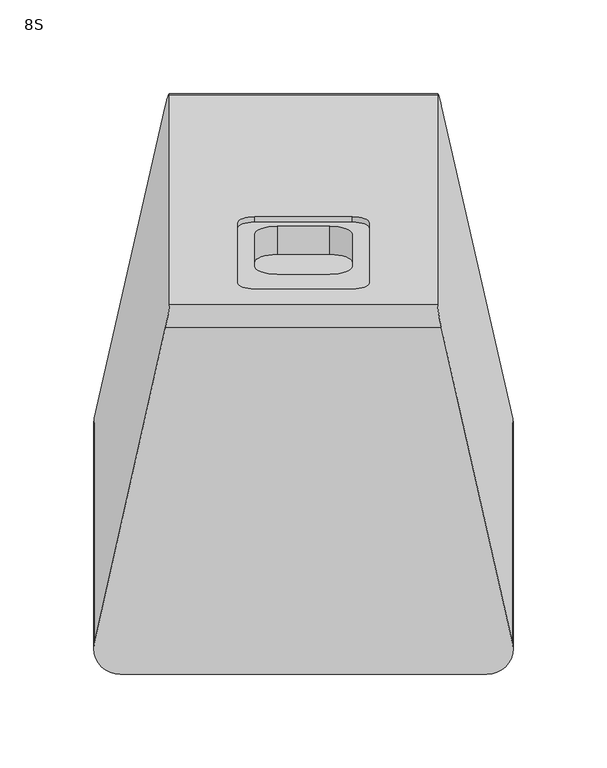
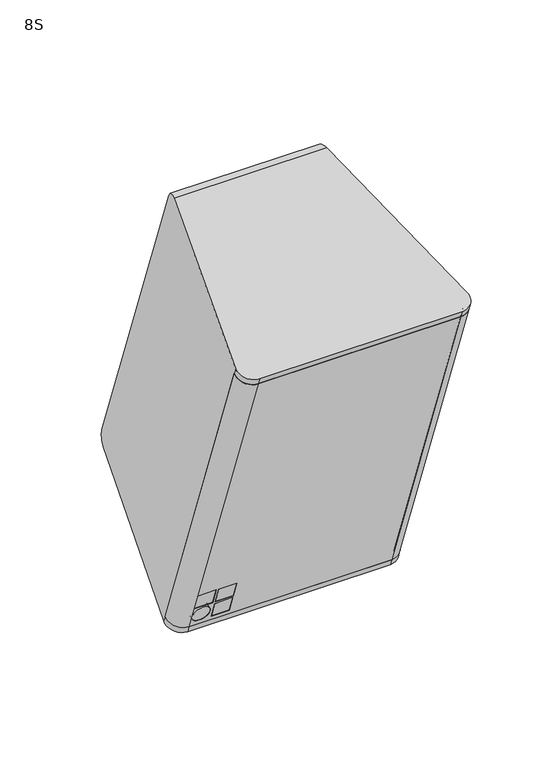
"""IFC4 building model written with IfcOpenShell, lengths in millimetres: proxy geometry, d&b xS-Series 8S Point Source : 8S."""

from ifc_helpers import new_model, si_unit, point, frame, frame_2d, origin, place, context, project, spatial, polyline, circle_curve, ellipse_curve, trimmed, segment, composite_curve, outline, extrude, source, transform, mapped, element, save
from ifc_brep_helpers import plane_surface, cylinder_surface, revolved_surface, advanced_brep


def proxy_8s_6c60cdf4(model_context):
    return source(origin(), model_context, "Body", "SolidModel", [
        extrude(outline(composite_curve([segment(polyline([(-2.8289978, -17.7116696), (-2.8289978, 194.7564467)]), True, "CONTINUOUS"), segment(trimmed(circle_curve(frame_2d((0.0817658, 186.2401415)), 9.0), [point((-2.8289978, 194.7564467))], [point((9.0817658, 186.2401415))], False, "CARTESIAN"), True, "CONTINUOUS"), segment(polyline([(9.0817658, 186.2401415), (9.0817658, -9.0817658)]), True, "CONTINUOUS"), segment(trimmed(circle_curve(frame_2d((0.0, -9.0817658)), 9.0817658), [point((9.0817658, -9.0817658))], [point((-2.8289978, -17.7116696))], False, "CARTESIAN"), True, "CONTINUOUS")], self_intersect=False)), frame((-88.5287017, -25.284558, -189.04887), z_axis=(0.0, -0.34202014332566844, 0.9396926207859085), x_axis=(0.0, -0.9396926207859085, -0.34202014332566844)), (0.0, 0.0, 1.0), 338.0),
        advanced_brep(
        [(-79.8104675, -53.0529455, -153.9281812), (-79.8104675, -48.3544824, -152.2180805), (-79.8104675, -42.3691299, -168.6627014), (-79.8104675, -47.067593, -170.3728021), (-97.3104675, -42.3691299, -168.6627014), (-97.3104675, -47.067593, -170.3728021), (-97.3104675, -48.3544824, -152.2180805), (-97.3104675, -53.0529455, -153.9281812), (-59.8104675, -53.0529455, -153.9281812), (-59.8104675, -48.3544824, -152.2180805), (-59.8104675, -42.3691299, -168.6627014), (-59.8104675, -47.067593, -170.3728021), (-77.3104675, -42.3691299, -168.6627014), (-77.3104675, -47.067593, -170.3728021), (-77.3104675, -48.3544824, -152.2180805), (-77.3104675, -53.0529455, -153.9281812), (-59.8104675, -46.2125426, -172.7220336), (-59.8104675, -41.5140795, -171.0119329), (-59.8104675, -35.528727, -187.4565538), (-59.8104675, -40.2271901, -189.1666545), (-77.3104675, -35.528727, -187.4565538), (-77.3104675, -40.2271901, -189.1666545), (-77.3104675, -41.5140795, -171.0119329), (-77.3104675, -46.2125426, -172.7220336), (-88.5604675, -40.2271901, -189.1666545), (-88.5604675, -35.528727, -187.4565538), (-88.5604675, -41.5140795, -171.0119329), (-88.5604675, -46.2125426, -172.7220336), (106.227745, -138.228978, 129.53481), (97.7114398, -149.4214347, 125.4610889), (-97.6104675, -149.4214347, 125.4610889), (-106.2403713, -138.228978, 129.53481), (-111.4051367, -138.228978, 129.53481), (-97.6104675, -154.1198979, 123.7509882), (97.7114398, -154.1198979, 123.7509882), (111.4055062, -138.228978, 129.53481), (106.227745, -22.6261696, -188.0812958), (111.4055062, -22.6261696, -188.0812958), (97.7114398, -38.5170894, -193.8651176), (-97.6104675, -38.5170894, -193.8651176), (-111.4051367, -22.6261696, -188.0812958), (-106.2403713, -22.6261696, -188.0812958), (-97.6104675, -33.8186263, -192.1550169), (97.7114398, -33.8186263, -192.1550169)],
        [
            (0, 1),
            (1, 2),
            (2, 3),
            (3, 0),
            (2, 4),
            (4, 5),
            (5, 3),
            (4, 6),
            (6, 7),
            (7, 5),
            (0, 7),
            (6, 1),
            (8, 9),
            (9, 10),
            (10, 11),
            (11, 8),
            (10, 12),
            (12, 13),
            (13, 11),
            (12, 14),
            (14, 15),
            (15, 13),
            (8, 15),
            (14, 9),
            (16, 17),
            (17, 18),
            (18, 19),
            (19, 16),
            (18, 20),
            (20, 21),
            (21, 19),
            (20, 22),
            (22, 23),
            (23, 21),
            (16, 23),
            (22, 17),
            (24, 25),
            (25, 26, circle_curve(frame((-88.5604675, -38.5214033, -179.2342434), z_axis=(0.0, 0.939692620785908, 0.34202014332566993), x_axis=(0.0, -0.34202014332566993, 0.939692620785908)), 8.75)),
            (26, 27),
            (27, 24, circle_curve(frame((-88.5604675, -43.2198664, -180.9443441), z_axis=(0.0, -0.939692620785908, -0.34202014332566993), x_axis=(0.0, -0.34202014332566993, 0.939692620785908)), 8.75)),
            (24, 27, circle_curve(frame((-88.5604675, -43.2198664, -180.9443441), z_axis=(0.0, -0.939692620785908, -0.34202014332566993), x_axis=(0.0, -0.34202014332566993, 0.939692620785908)), 8.75)),
            (26, 25, circle_curve(frame((-88.5604675, -38.5214033, -179.2342434), z_axis=(0.0, 0.939692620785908, 0.34202014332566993), x_axis=(0.0, -0.34202014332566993, 0.939692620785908)), 8.75)),
            (28, 29, circle_curve(frame((97.7114398, -140.9642012, 128.5392702), z_axis=(0.0, 0.34202014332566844, -0.9396926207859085), x_axis=(0.0, -0.9396926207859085, -0.34202014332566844)), 9.0)),
            (29, 30),
            (30, 31, circle_curve(frame((-97.6104675, -140.8873664, 128.5672358), z_axis=(0.0, 0.34202014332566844, -0.9396926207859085), x_axis=(0.0, -0.9396926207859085, -0.34202014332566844)), 9.0817658)),
            (31, 32),
            (32, 33, circle_curve(frame((-97.6104675, -140.8873664, 128.5672358), z_axis=(0.0, -0.34202014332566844, 0.9396926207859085), x_axis=(0.0, -0.9396926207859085, -0.34202014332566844)), 14.0817658)),
            (33, 34),
            (34, 35, circle_curve(frame((97.7114398, -140.9642012, 128.5392702), z_axis=(0.0, -0.34202014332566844, 0.9396926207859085), x_axis=(0.0, -0.9396926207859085, -0.34202014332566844)), 14.0)),
            (35, 28),
            (36, 37),
            (37, 38, circle_curve(frame((97.7114398, -25.3613927, -189.0768356), z_axis=(0.0, 0.34202014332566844, -0.9396926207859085), x_axis=(0.0, -0.9396926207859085, -0.34202014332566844)), 14.0)),
            (38, 39),
            (39, 40, circle_curve(frame((-97.6104675, -25.284558, -189.04887), z_axis=(0.0, 0.34202014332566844, -0.9396926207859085), x_axis=(0.0, -0.9396926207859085, -0.34202014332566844)), 14.0817658)),
            (40, 41),
            (41, 42, circle_curve(frame((-97.6104675, -25.284558, -189.04887), z_axis=(0.0, -0.34202014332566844, 0.9396926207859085), x_axis=(0.0, -0.9396926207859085, -0.34202014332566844)), 9.0817658)),
            (42, 43),
            (43, 36, circle_curve(frame((97.7114398, -25.3613927, -189.0768356), z_axis=(0.0, -0.34202014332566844, 0.9396926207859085), x_axis=(0.0, -0.9396926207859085, -0.34202014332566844)), 9.0)),
            (28, 36),
            (43, 29),
            (42, 30),
            (41, 31),
            (40, 32),
            (39, 33),
            (38, 34),
            (37, 35),
        ],
        [
            plane_surface(frame((-79.8104675, -47.067593, -170.3728021), z_axis=(-1.0, 0.0, 0.0), x_axis=(0.0, 0.9396926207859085, 0.34202014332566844))),
            plane_surface(frame((-97.3104675, -47.067593, -170.3728021), z_axis=(0.0, -0.34202014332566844, 0.9396926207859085), x_axis=(0.0, 0.9396926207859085, 0.34202014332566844))),
            plane_surface(frame((-97.3104675, -53.0529455, -153.9281812), z_axis=(1.0, 0.0, 0.0), x_axis=(0.0, 0.9396926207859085, 0.34202014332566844))),
            plane_surface(frame((-79.8104675, -53.0529455, -153.9281812), z_axis=(0.0, 0.34202014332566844, -0.9396926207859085), x_axis=(0.0, 0.9396926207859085, 0.34202014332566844))),
            plane_surface(frame((-59.8104675, -47.067593, -170.3728021), z_axis=(-1.0, 0.0, 0.0), x_axis=(0.0, 0.9396926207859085, 0.34202014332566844))),
            plane_surface(frame((-77.3104675, -47.067593, -170.3728021), z_axis=(0.0, -0.34202014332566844, 0.9396926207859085), x_axis=(0.0, 0.9396926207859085, 0.34202014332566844))),
            plane_surface(frame((-77.3104675, -53.0529455, -153.9281812), z_axis=(1.0, 0.0, 0.0), x_axis=(0.0, 0.9396926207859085, 0.34202014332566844))),
            plane_surface(frame((-59.8104675, -53.0529455, -153.9281812), z_axis=(0.0, 0.34202014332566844, -0.9396926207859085), x_axis=(0.0, 0.9396926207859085, 0.34202014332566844))),
            plane_surface(frame((-59.8104675, -40.2271901, -189.1666545), z_axis=(-1.0, 0.0, 0.0), x_axis=(0.0, 0.9396926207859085, 0.34202014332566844))),
            plane_surface(frame((-77.3104675, -40.2271901, -189.1666545), z_axis=(0.0, -0.34202014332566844, 0.9396926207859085), x_axis=(0.0, 0.9396926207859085, 0.34202014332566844))),
            plane_surface(frame((-77.3104675, -46.2125426, -172.7220336), z_axis=(1.0, 0.0, 0.0), x_axis=(0.0, 0.9396926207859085, 0.34202014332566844))),
            plane_surface(frame((-59.8104675, -46.2125426, -172.7220336), z_axis=(0.0, 0.34202014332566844, -0.9396926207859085), x_axis=(0.0, 0.9396926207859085, 0.34202014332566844))),
            revolved_surface(polyline([(-88.5604675, -46.21254264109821, -172.72203370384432), (-88.5604675, -41.51407947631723, -171.01193296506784)]), (-88.5604675, -80.5704945, -194.538861), (0.0, -0.939692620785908, -0.34202014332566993)),
            plane_surface(frame((97.7114398, -149.4214347, 125.4610889), z_axis=(0.0, -0.34202014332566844, 0.9396926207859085), x_axis=(-1.0, 0.0, 0.0))),
            plane_surface(frame((97.7114398, -33.8186263, -192.1550169), z_axis=(0.0, 0.34202014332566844, -0.9396926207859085), x_axis=(1.0, 0.0, 0.0))),
            revolved_surface(polyline([(97.7114398, -33.81862628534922, -192.15501689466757), (97.7114398, -149.4214347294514, 125.46108893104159)]), (97.7114398, -25.3613927, -189.0768356), (0.0, 0.34202014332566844, -0.9396926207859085)),
            plane_surface(frame((97.7114398, -149.4214347, 125.4610889), z_axis=(0.0, 0.9396926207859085, 0.34202014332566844), x_axis=(0.0, 0.34202014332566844, -0.9396926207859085))),
            revolved_surface(polyline([(-97.6104675, -33.8186262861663, -192.15501689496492), (-97.6104675, -149.4214347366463, 125.46108894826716)]), (-97.6104675, -25.284558, -189.04887), (0.0, 0.34202014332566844, -0.9396926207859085)),
            plane_surface(frame((-106.2403713, -138.228978, 129.53481), z_axis=(0.0, 0.9396926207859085, 0.34202014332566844), x_axis=(0.0, 0.34202014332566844, -0.9396926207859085))),
            cylinder_surface(frame((-97.6104675, -25.284558, -189.04887), z_axis=(0.0, -0.34202014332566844, 0.9396926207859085), x_axis=(0.0, -0.9396926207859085, -0.34202014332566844)), 14.0817658),
            plane_surface(frame((-97.6104675, -154.1198979, 123.7509882), z_axis=(0.0, -0.9396926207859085, -0.34202014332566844), x_axis=(0.0, 0.34202014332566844, -0.9396926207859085))),
            cylinder_surface(frame((97.7114398, -25.3613927, -189.0768356), z_axis=(0.0, -0.34202014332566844, 0.9396926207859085), x_axis=(0.0, -0.9396926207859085, -0.34202014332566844)), 14.0),
            plane_surface(frame((111.4055062, -138.228978, 129.53481), z_axis=(0.0, 0.9396926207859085, 0.34202014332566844), x_axis=(0.0, 0.34202014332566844, -0.9396926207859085))),
        ],
        [
            (0, [[1, 2, 3, 4]]),
            (1, [[-3, 5, 6, 7]]),
            (2, [[-6, 8, 9, 10]]),
            (3, [[-1, 11, -9, 12]]),
            (4, [[13, 14, 15, 16]]),
            (5, [[-15, 17, 18, 19]]),
            (6, [[-18, 20, 21, 22]]),
            (7, [[-13, 23, -21, 24]]),
            (8, [[25, 26, 27, 28]]),
            (9, [[-27, 29, 30, 31]]),
            (10, [[-30, 32, 33, 34]]),
            (11, [[-25, 35, -33, 36]]),
            (12, [[37, 38, 39, 40]]),
            (12, [[-37, 41, -39, 42]]),
            (13, [[43, 44, 45, 46, 47, 48, 49, 50]]),
            (14, [[51, 52, 53, 54, 55, 56, 57, 58]]),
            (15, [[-43, 59, -58, 60]]),
            (16, [[-44, -60, -57, 61], [-2, -12, -8, -5], [-14, -24, -20, -17], [-26, -36, -32, -29], [-38, -42]]),
            (17, [[-45, -61, -56, 62]]),
            (18, [[-46, -62, -55, 63]]),
            (19, [[-47, -63, -54, 64]]),
            (20, [[-48, -64, -53, 65], [-4, -7, -10, -11], [-16, -19, -22, -23], [-28, -31, -34, -35], [-40, -41]]),
            (21, [[-49, -65, -52, 66]]),
            (22, [[-50, -66, -51, -59]]),
        ],
    ),
        extrude(outline(polyline([(0.0, -17.5), (0.0, 0.0), (5.0, 0.0), (5.0, -17.5), (0.0, -17.5)])), frame((-77.3104675, -47.067593, -170.3728021), z_axis=(0.0, -0.34202014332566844, 0.9396926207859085), x_axis=(0.0, 0.9396926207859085, 0.34202014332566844)), (0.0, 0.0, 1.0), 17.5),
        extrude(outline(polyline([(0.0, -17.5), (0.0, 0.0), (5.0, 0.0), (5.0, -17.5), (0.0, -17.5)])), frame((-97.3104675, -47.067593, -170.3728021), z_axis=(0.0, -0.34202014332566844, 0.9396926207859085), x_axis=(0.0, 0.9396926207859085, 0.34202014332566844)), (0.0, 0.0, 1.0), 17.5),
        extrude(outline(composite_curve([segment(trimmed(circle_curve(frame_2d((28.75, 11.25)), 8.75), [point((37.5, 11.25))], [point((20.0, 11.25))], False, "CARTESIAN"), True, "CONTINUOUS"), segment(trimmed(circle_curve(frame_2d((28.75, 11.25)), 8.75), [point((20.0, 11.25))], [point((37.5, 11.25))], False, "CARTESIAN"), True, "CONTINUOUS")], self_intersect=False)), frame((-77.3104675, -53.0529455, -153.9281812), z_axis=(0.0, 0.939692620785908, 0.34202014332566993), x_axis=(0.0, 0.34202014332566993, -0.939692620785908)), (0.0, 0.0, 1.0), 5.0),
        extrude(outline(polyline([(0.0, -17.5), (0.0, 0.0), (5.0, 0.0), (5.0, -17.5), (0.0, -17.5)])), frame((-77.3104675, -40.2271901, -189.1666545), z_axis=(0.0, -0.34202014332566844, 0.9396926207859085), x_axis=(0.0, 0.9396926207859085, 0.34202014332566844)), (0.0, 0.0, 1.0), 17.5),
        advanced_brep(
        [(-35.0, 49.0367971, 156.191045), (-26.0, 45.9586158, 164.6482786), (26.0, 45.9586158, 164.6482786), (35.0, 49.0367971, 156.191045), (35.0, 81.1866906, 67.8599386), (26.0, 84.2648719, 59.402705), (-26.0, 84.2648719, 59.402705), (-35.0, 81.1866906, 67.8599386), (-25.9695321, 77.9344949, 76.7952728), (-13.9695321, 82.0387367, 65.5189613), (13.9695321, 82.0387367, 65.5189613), (25.9695321, 77.9344949, 76.7952728), (25.9695321, 60.6759026, 124.2128654), (13.9695321, 56.5716609, 135.4891769), (-13.9695321, 56.5716609, 135.4891769), (-25.9695321, 60.6759026, 124.2128654), (-35.0, 51.855875, 157.2171054), (-26.0, 48.7776937, 165.674339), (26.0, 48.7776937, 165.674339), (35.0, 51.855875, 157.2171054), (35.0, 84.0057685, 68.885999), (26.0, 87.0839498, 60.4287655), (-26.0, 87.0839498, 60.4287655), (-35.0, 84.0057685, 68.885999), (-13.9695321, 67.0036547, 60.046639), (-25.9695321, 62.899413, 71.3229505), (-25.9695321, 45.6408207, 118.7405431), (-13.9695321, 41.536579, 130.0168546), (13.9695321, 41.536579, 130.0168546), (25.9695321, 45.6408207, 118.7405431), (25.9695321, 62.899413, 71.3229505), (13.9695321, 67.0036547, 60.046639), (111.4055062, -138.228978, 129.53481), (97.7114398, -154.1198979, 123.7509882), (-97.6104675, -154.1198979, 123.7509882), (-111.4051367, -138.228978, 129.53481), (-111.4051367, -22.6261696, -188.0812958), (-97.6104675, -38.5170894, -193.8651176), (97.7114398, -38.5170894, -193.8651176), (111.4055062, -22.6261696, -188.0812958), (-111.3845129, -140.4376613, 135.8918896), (-73.5176241, 27.9386545, 194.1566557), (-71.4259049, 40.6057168, 188.1266609), (-71.4259049, 152.0312704, -118.0125315), (-73.5176241, 146.2037437, -130.7740063), (-111.3845129, -20.2318672, -194.3708155), (71.4259049, 40.6057168, 188.1266609), (71.4259049, 152.0312704, -118.0125315), (111.4055062, -20.3241388, -194.4060735), (73.5176241, 146.2037437, -130.7740063), (73.5176241, 27.9386545, 194.1566557), (111.4055062, -140.5310088, 135.8595877), (-97.6104675, -156.5140389, 130.3288366), (97.7114398, -156.5140389, 130.3288366), (-97.6104675, -36.1229484, -200.4429659), (97.7114398, -36.1229484, -200.4429659)],
        [
            (0, 1, circle_curve(frame((-26.0, 49.0367971, 156.191045), z_axis=(0.0, 0.9396926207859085, 0.34202014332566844), x_axis=(-1.0, 0.0, 0.0)), 9.0)),
            (1, 2),
            (2, 3, circle_curve(frame((26.0, 49.0367971, 156.191045), z_axis=(0.0, 0.9396926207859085, 0.34202014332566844), x_axis=(-1.0, 0.0, 0.0)), 9.0)),
            (3, 4),
            (4, 5, circle_curve(frame((26.0, 81.1866906, 67.8599386), z_axis=(0.0, 0.9396926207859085, 0.34202014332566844), x_axis=(-1.0, 0.0, 0.0)), 9.0)),
            (5, 6),
            (6, 7, circle_curve(frame((-26.0, 81.1866906, 67.8599386), z_axis=(0.0, 0.9396926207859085, 0.34202014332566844), x_axis=(-1.0, 0.0, 0.0)), 9.0)),
            (7, 0),
            (8, 9, circle_curve(frame((-13.9695321, 77.9344949, 76.7952728), z_axis=(0.0, -0.9396926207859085, -0.34202014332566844), x_axis=(-1.0, 0.0, 0.0)), 12.0)),
            (9, 10),
            (10, 11, circle_curve(frame((13.9695321, 77.9344949, 76.7952728), z_axis=(0.0, -0.9396926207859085, -0.34202014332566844), x_axis=(-1.0, 0.0, 0.0)), 12.0)),
            (11, 12),
            (12, 13, circle_curve(frame((13.9695321, 60.6759026, 124.2128654), z_axis=(0.0, -0.9396926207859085, -0.34202014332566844), x_axis=(-1.0, 0.0, 0.0)), 12.0)),
            (13, 14),
            (14, 15, circle_curve(frame((-13.9695321, 60.6759026, 124.2128654), z_axis=(0.0, -0.9396926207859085, -0.34202014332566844), x_axis=(-1.0, 0.0, 0.0)), 12.0)),
            (15, 8),
            (0, 16),
            (16, 17, circle_curve(frame((-26.0, 51.855875, 157.2171054), z_axis=(0.0, 0.9396926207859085, 0.34202014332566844), x_axis=(-1.0, 0.0, 0.0)), 9.0)),
            (17, 1),
            (17, 18),
            (18, 2),
            (18, 19, circle_curve(frame((26.0, 51.855875, 157.2171054), z_axis=(0.0, 0.9396926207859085, 0.34202014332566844), x_axis=(-1.0, 0.0, 0.0)), 9.0)),
            (19, 3),
            (19, 20),
            (20, 4),
            (20, 21, circle_curve(frame((26.0, 84.0057685, 68.885999), z_axis=(0.0, 0.9396926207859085, 0.34202014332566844), x_axis=(-1.0, 0.0, 0.0)), 9.0)),
            (21, 5),
            (21, 22),
            (22, 6),
            (22, 23, circle_curve(frame((-26.0, 84.0057685, 68.885999), z_axis=(0.0, 0.9396926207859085, 0.34202014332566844), x_axis=(-1.0, 0.0, 0.0)), 9.0)),
            (23, 7),
            (23, 16),
            (24, 25, circle_curve(frame((-13.9695321, 62.899413, 71.3229505), z_axis=(0.0, 0.9396926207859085, 0.34202014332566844), x_axis=(-1.0, 0.0, 0.0)), 12.0)),
            (25, 26),
            (26, 27, circle_curve(frame((-13.9695321, 45.6408207, 118.7405431), z_axis=(0.0, 0.9396926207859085, 0.34202014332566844), x_axis=(-1.0, 0.0, 0.0)), 12.0)),
            (27, 28),
            (28, 29, circle_curve(frame((13.9695321, 45.6408207, 118.7405431), z_axis=(0.0, 0.9396926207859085, 0.34202014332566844), x_axis=(-1.0, 0.0, 0.0)), 12.0)),
            (29, 30),
            (30, 31, circle_curve(frame((13.9695321, 62.899413, 71.3229505), z_axis=(0.0, 0.9396926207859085, 0.34202014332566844), x_axis=(-1.0, 0.0, 0.0)), 12.0)),
            (31, 24),
            (32, 33, circle_curve(frame((97.7114398, -140.9642012, 128.5392702), z_axis=(0.0, 0.34202014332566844, -0.9396926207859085), x_axis=(0.0, -0.9396926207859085, -0.34202014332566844)), 14.0)),
            (33, 34),
            (34, 35, circle_curve(frame((-97.6104675, -140.8873664, 128.5672358), z_axis=(0.0, 0.34202014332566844, -0.9396926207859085), x_axis=(0.0, -0.9396926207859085, -0.34202014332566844)), 14.0817658)),
            (35, 32),
            (36, 37, circle_curve(frame((-97.6104675, -25.284558, -189.04887), z_axis=(0.0, -0.34202014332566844, 0.9396926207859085), x_axis=(0.0, -0.9396926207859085, -0.34202014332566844)), 14.0817658)),
            (37, 38),
            (38, 39, circle_curve(frame((97.7114398, -25.3613927, -189.0768356), z_axis=(0.0, -0.34202014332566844, 0.9396926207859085), x_axis=(0.0, -0.9396926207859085, -0.34202014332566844)), 14.0)),
            (39, 36),
            (24, 9),
            (8, 25),
            (15, 26),
            (14, 27),
            (13, 28),
            (12, 29),
            (11, 30),
            (10, 31),
            (36, 35),
            (35, 40),
            (40, 41),
            (41, 42, ellipse_curve(frame((-73.5514705, 31.2087906, 184.7064595), z_axis=(-0.9781476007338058, 0.19537308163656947, 0.071109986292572), x_axis=(-0.20791169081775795, -0.9191580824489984, -0.334546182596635)), 10.2234059, 10.0)),
            (42, 43),
            (43, 44, ellipse_curve(frame((-73.5514705, 142.6343442, -121.432733), z_axis=(-0.9781476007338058, 0.19537308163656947, 0.071109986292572), x_axis=(-0.20791169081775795, -0.9191580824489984, -0.334546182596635)), 10.2234059, 10.0)),
            (44, 45),
            (45, 36),
            (42, 46),
            (46, 47),
            (47, 43),
            (32, 39),
            (39, 48),
            (48, 49),
            (49, 47, ellipse_curve(frame((73.5514705, 142.6343442, -121.432733), z_axis=(0.9781476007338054, 0.19537308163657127, 0.07110998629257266), x_axis=(-0.20791169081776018, 0.9191580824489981, 0.3345461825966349)), 10.2234059, 10.0)),
            (46, 50, ellipse_curve(frame((73.5514705, 31.2087906, 184.7064595), z_axis=(0.9781476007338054, 0.19537308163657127, 0.07110998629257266), x_axis=(-0.20791169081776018, 0.9191580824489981, 0.3345461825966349)), 10.2234059, 10.0)),
            (50, 51),
            (51, 32),
            (34, 52),
            (52, 40, ellipse_curve(frame((-97.6104675, -143.2048064, 134.9343496), z_axis=(0.0, 0.32701361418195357, -0.9450196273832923), x_axis=(0.0, -0.9450196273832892, -0.3270136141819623)), 14.0835514, 14.0817658)),
            (33, 53),
            (53, 52),
            (51, 53, ellipse_curve(frame((97.7114398, -143.2820864, 134.9076077), z_axis=(0.0, 0.32701361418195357, -0.9450196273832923), x_axis=(0.0, -0.9450196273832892, -0.3270136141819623)), 14.0017752, 14.0)),
            (45, 54, ellipse_curve(frame((-97.6104675, -22.9671181, -195.4159839), z_axis=(0.0, -0.35693994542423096, 0.9341273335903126), x_axis=(0.0, 0.9341273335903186, 0.3569399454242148)), 14.0835514, 14.0817658)),
            (54, 37),
            (54, 55),
            (55, 38),
            (55, 48, ellipse_curve(frame((97.7114398, -23.0435074, -195.4451731), z_axis=(0.0, -0.35693994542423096, 0.9341273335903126), x_axis=(0.0, 0.9341273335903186, 0.3569399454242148)), 14.0017752, 14.0)),
            (49, 44),
            (50, 41),
        ],
        [
            plane_surface(frame((-35.0, 49.0367971, 156.191045), z_axis=(0.0, 0.9396926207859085, 0.34202014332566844), x_axis=(0.0, 0.34202014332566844, -0.9396926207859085))),
            revolved_surface(polyline([(-35.0, 51.85587498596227, 157.21710543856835), (-35.0, 49.03679709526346, 156.19104499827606)]), (-26.0, 49.0367971, 156.191045), (0.0, 0.9396926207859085, 0.34202014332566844)),
            plane_surface(frame((-26.0, 48.7776937, 165.674339), z_axis=(0.0, 0.34202014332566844, -0.9396926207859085), x_axis=(0.0, -0.9396926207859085, -0.34202014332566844))),
            revolved_surface(polyline([(17.0, 51.85587498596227, 157.21710543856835), (17.0, 49.03679709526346, 156.19104499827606)]), (26.0, 49.0367971, 156.191045), (0.0, 0.9396926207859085, 0.34202014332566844)),
            plane_surface(frame((35.0, 51.855875, 157.2171054), z_axis=(-1.0, 0.0, 0.0), x_axis=(0.0, -0.9396926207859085, -0.34202014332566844))),
            revolved_surface(polyline([(17.0, 84.00576852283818, 68.8859990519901), (17.0, 81.1866906, 67.8599386)]), (26.0, 81.1866906, 67.8599386), (0.0, 0.9396926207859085, 0.34202014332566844)),
            plane_surface(frame((26.0, 87.0839498, 60.4287655), z_axis=(0.0, -0.34202014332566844, 0.9396926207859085), x_axis=(0.0, -0.9396926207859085, -0.34202014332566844))),
            revolved_surface(polyline([(-35.0, 84.00576852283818, 68.8859990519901), (-35.0, 81.1866906, 67.8599386)]), (-26.0, 81.1866906, 67.8599386), (0.0, 0.9396926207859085, 0.34202014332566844)),
            plane_surface(frame((-35.0, 84.0057685, 68.885999), z_axis=(1.0, 0.0, 0.0), x_axis=(0.0, -0.9396926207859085, -0.34202014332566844))),
            plane_surface(frame((-25.9695321, 62.899413, 71.3229505), z_axis=(0.0, 0.9396926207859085, 0.34202014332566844), x_axis=(0.0, 0.34202014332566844, -0.9396926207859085))),
            plane_surface(frame((-97.6104675, -154.1198979, 123.7509882), z_axis=(0.0, 0.34202014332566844, -0.9396926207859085), x_axis=(-1.0, 0.0, 0.0))),
            plane_surface(frame((-97.6104675, -38.5170894, -193.8651176), z_axis=(0.0, -0.34202014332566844, 0.9396926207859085), x_axis=(1.0, 0.0, 0.0))),
            revolved_surface(polyline([(-25.969532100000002, 77.93449496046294, 76.79527280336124), (-25.969532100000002, 62.89941296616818, 71.32295048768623)]), (-13.9695321, 62.899413, 71.3229505), (0.0, 0.9396926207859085, 0.34202014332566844)),
            plane_surface(frame((-25.9695321, 80.7535728, 77.8213332), z_axis=(1.0, 0.0, 0.0), x_axis=(0.0, -0.9396926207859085, -0.34202014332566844))),
            revolved_surface(polyline([(-25.969532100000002, 60.67590263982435, 124.2128653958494), (-25.969532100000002, 45.6408207, 118.7405431)]), (-13.9695321, 45.6408207, 118.7405431), (0.0, 0.9396926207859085, 0.34202014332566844)),
            plane_surface(frame((-13.9695321, 59.3907388, 136.5152373), z_axis=(0.0, 0.34202014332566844, -0.9396926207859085), x_axis=(0.0, -0.9396926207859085, -0.34202014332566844))),
            revolved_surface(polyline([(1.9695321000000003, 60.67590263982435, 124.2128653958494), (1.9695321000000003, 45.6408207, 118.7405431)]), (13.9695321, 45.6408207, 118.7405431), (0.0, 0.9396926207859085, 0.34202014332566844)),
            plane_surface(frame((25.9695321, 63.4949805, 125.2389258), z_axis=(-1.0, 0.0, 0.0), x_axis=(0.0, -0.9396926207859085, -0.34202014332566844))),
            revolved_surface(polyline([(1.9695321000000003, 77.93449496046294, 76.79527280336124), (1.9695321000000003, 62.89941296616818, 71.32295048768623)]), (13.9695321, 62.899413, 71.3229505), (0.0, 0.9396926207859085, 0.34202014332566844)),
            plane_surface(frame((13.9695321, 84.8578145, 66.5450217), z_axis=(0.0, -0.34202014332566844, 0.9396926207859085), x_axis=(0.0, -0.9396926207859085, -0.34202014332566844))),
            plane_surface(frame((-111.4055062, -20.2320286, -194.6591441), z_axis=(-0.9781476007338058, 0.19537308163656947, 0.071109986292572), x_axis=(0.0, -0.34202014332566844, 0.9396926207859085))),
            plane_surface(frame((-71.4259049, 156.5140389, -130.3288366), z_axis=(0.0, 0.9396926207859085, 0.34202014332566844), x_axis=(0.0, -0.34202014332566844, 0.9396926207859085))),
            plane_surface(frame((71.4259049, 156.5140389, -130.3288366), z_axis=(0.9781476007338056, 0.19537308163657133, 0.07110998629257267), x_axis=(0.0, -0.34202014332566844, 0.9396926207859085))),
            plane_surface(frame((111.4055062, -20.2320286, -194.6591441), z_axis=(0.0, -0.9396926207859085, -0.34202014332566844), x_axis=(0.0, -0.34202014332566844, 0.9396926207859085))),
            cylinder_surface(frame((-97.6104675, -140.8873664, 128.5672358), z_axis=(0.0, -0.34202014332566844, 0.9396926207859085), x_axis=(0.0, -0.9396926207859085, -0.34202014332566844)), 14.0817658),
            plane_surface(frame((-97.6104675, -156.5140389, 130.3288366), z_axis=(0.0, -0.9396926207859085, -0.34202014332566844), x_axis=(0.0, 0.34202014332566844, -0.9396926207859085))),
            cylinder_surface(frame((97.7114398, -140.9642012, 128.5392702), z_axis=(0.0, -0.34202014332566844, 0.9396926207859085), x_axis=(0.0, -0.9396926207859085, -0.34202014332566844)), 14.0),
            cylinder_surface(frame((-97.6104675, -22.890417, -195.6267184), z_axis=(0.0, -0.34202014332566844, 0.9396926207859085), x_axis=(0.0, -0.9396926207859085, -0.34202014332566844)), 14.0817658),
            plane_surface(frame((-97.6104675, -38.5170894, -193.8651176), z_axis=(0.0, -0.9396926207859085, -0.34202014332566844), x_axis=(0.0, 0.34202014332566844, -0.9396926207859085))),
            cylinder_surface(frame((97.7114398, -22.9672517, -195.6546839), z_axis=(0.0, -0.34202014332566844, 0.9396926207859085), x_axis=(0.0, -0.9396926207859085, -0.34202014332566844)), 14.0),
            cylinder_surface(frame((-120.0, 142.6343442, -121.432733), z_axis=(-1.0, 0.0, 0.0), x_axis=(0.0, 0.9396926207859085, 0.34202014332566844)), 10.0),
            plane_surface(frame((120.0, 146.2037437, -130.7740063), z_axis=(0.0, 0.35693994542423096, -0.9341273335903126), x_axis=(-1.0, 0.0, 0.0))),
            plane_surface(frame((120.0, -156.5140389, 130.3288366), z_axis=(0.0, -0.32701361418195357, 0.9450196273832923), x_axis=(-1.0, 0.0, 0.0))),
            cylinder_surface(frame((0.0, 31.2087906, 184.7064595), z_axis=(-1.0, 0.0, 0.0), x_axis=(0.0, 0.9396926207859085, 0.34202014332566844)), 10.0),
        ],
        [
            (0, [[1, 2, 3, 4, 5, 6, 7, 8], [9, 10, 11, 12, 13, 14, 15, 16]]),
            (1, [[-1, 17, 18, 19]]),
            (2, [[-2, -19, 20, 21]]),
            (3, [[-3, -21, 22, 23]]),
            (4, [[-4, -23, 24, 25]]),
            (5, [[-5, -25, 26, 27]]),
            (6, [[-6, -27, 28, 29]]),
            (7, [[-7, -29, 30, 31]]),
            (8, [[-8, -31, 32, -17]]),
            (9, [[33, 34, 35, 36, 37, 38, 39, 40]]),
            (10, [[41, 42, 43, 44]]),
            (11, [[45, 46, 47, 48]]),
            (12, [[-33, 49, -9, 50]]),
            (13, [[-34, -50, -16, 51]]),
            (14, [[-35, -51, -15, 52]]),
            (15, [[-36, -52, -14, 53]]),
            (16, [[-37, -53, -13, 54]]),
            (17, [[-38, -54, -12, 55]]),
            (18, [[-39, -55, -11, 56]]),
            (19, [[-40, -56, -10, -49]]),
            (20, [[57, 58, 59, 60, 61, 62, 63, 64]]),
            (21, [[-61, 65, 66, 67], [-18, -32, -30, -28, -26, -24, -22, -20]]),
            (22, [[68, 69, 70, 71, -66, 72, 73, 74]]),
            (23, [[-44, -57, -48, -68]]),
            (24, [[-43, 75, 76, -58]]),
            (25, [[-42, 77, 78, -75]]),
            (26, [[-41, -74, 79, -77]]),
            (27, [[-45, -64, 80, 81]]),
            (28, [[-46, -81, 82, 83]]),
            (29, [[-47, -83, 84, -69]]),
            (30, [[85, -62, -67, -71]]),
            (31, [[-85, -70, -84, -82, -80, -63]]),
            (32, [[86, -59, -76, -78, -79, -73]]),
            (33, [[-86, -72, -65, -60]]),
        ],
    ),
    ])


if __name__ == "__main__":
    model = new_model("IFC4")
    model_context = context("Model", 3, world=origin())
    ifc_project = project(units=[si_unit("LENGTHUNIT", "METRE", prefix="MILLI")], contexts=[model_context])
    site = spatial("IfcSite", under=ifc_project)
    building = spatial("IfcBuilding", under=site)
    placement = place(None, origin())
    proxy_8s_shape = proxy_8s_6c60cdf4(model_context)
    element("IfcBuildingElementProxy", 1, Name="d&b xS-Series 8S Point Source : 8S", ObjectType="d&b xS-Series 8S Point Source : 8S", at=placement, inside=building, context=model_context, shape_type="MappedRepresentation", body=[
        mapped(proxy_8s_shape, transform((0.0, 0.0, 0.0), x_axis=(1.0, 0.0, 0.0), y_axis=(0.0, 1.0, 0.0), z_axis=(0.0, 0.0, 1.0))),
    ])
    save(model, "model.ifc")
